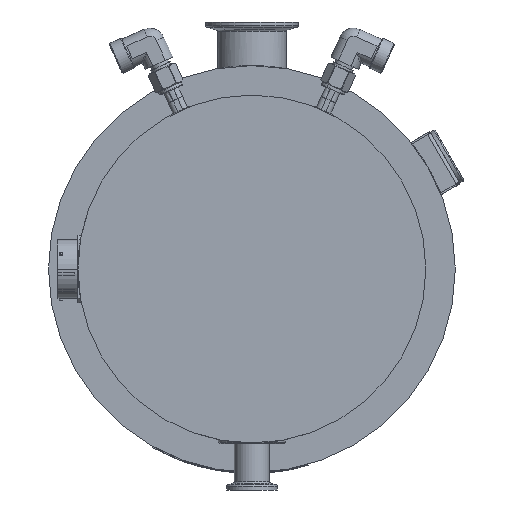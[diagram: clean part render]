
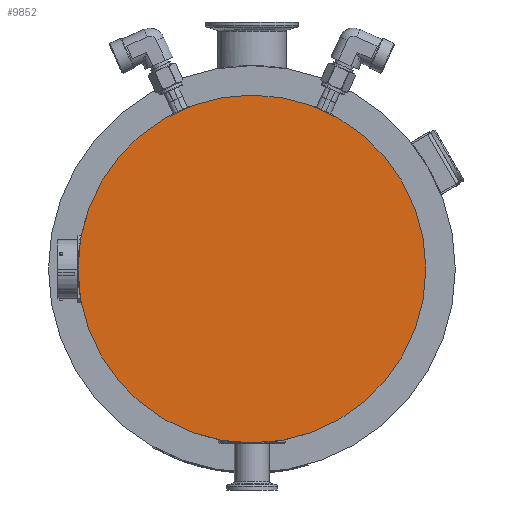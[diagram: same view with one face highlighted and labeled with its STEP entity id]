
A CAD part, front view. The second image highlights one B-rep face of the part: STEP entity #9852.
In plain terms, the highlighted planar face has unit normal (0, -1, 0).
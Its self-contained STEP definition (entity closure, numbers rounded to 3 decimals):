
#1264=CARTESIAN_POINT('',(0.,-7.7,0.));
#1265=DIRECTION('',(0.,1.,0.));
#1266=DIRECTION('',(0.,0.,-1.));
#1267=AXIS2_PLACEMENT_3D('',#1264,#1265,#1266);
#1657=CARTESIAN_POINT('',(0.,-7.7,0.));
#1658=DIRECTION('',(0.,-1.,0.));
#1659=DIRECTION('',(0.,0.,-1.));
#1660=AXIS2_PLACEMENT_3D('',#1657,#1658,#1659);
#6893=CARTESIAN_POINT('',(0.,-7.7,103.5));
#6895=VERTEX_POINT('',#6893);
#6917=CARTESIAN_POINT('',(0.,-7.7,-103.5));
#6918=VERTEX_POINT('',#6917);
#9843=CARTESIAN_POINT('',(0.,-7.7,0.));
#9844=DIRECTION('',(0.,-1.,0.));
#9845=DIRECTION('',(0.,0.,1.));
#9846=AXIS2_PLACEMENT_3D('',#9843,#9844,#9845);
#9847=PLANE('',#9846);
#9848=ORIENTED_EDGE('',*,*,#9209,.T.);
#9849=ORIENTED_EDGE('',*,*,#9703,.F.);
#9850=EDGE_LOOP('',(#9848,#9849));
#9851=FACE_OUTER_BOUND('',#9850,.F.);
#9852=ADVANCED_FACE('',(#9851),#9847,.T.);
#1268=CIRCLE('',#1267,103.5);
#1661=CIRCLE('',#1660,103.5);
#9209=EDGE_CURVE('',#6918,#6895,#1268,.T.);
#9703=EDGE_CURVE('',#6918,#6895,#1661,.T.);
